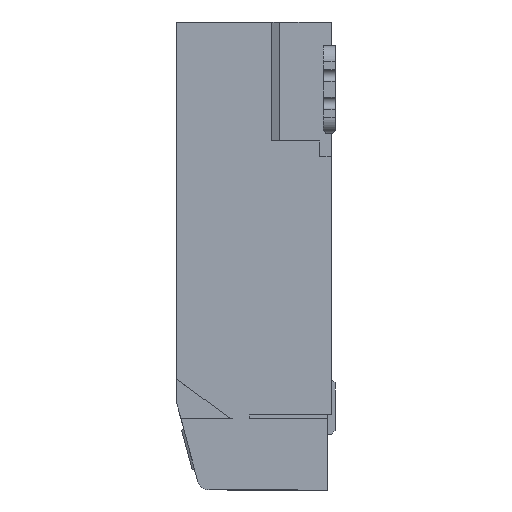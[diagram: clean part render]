
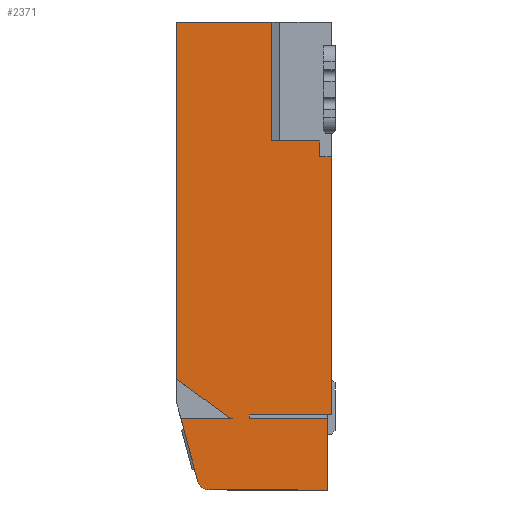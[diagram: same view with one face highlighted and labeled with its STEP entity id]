
A CAD part, left-side view. The second image highlights one B-rep face of the part: STEP entity #2371.
In plain terms, the highlighted planar face has unit normal (-1, 0, 0).
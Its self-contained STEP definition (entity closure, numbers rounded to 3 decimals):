
#13 = ORIENTED_EDGE ( 'NONE', *, *, #2434, .F. ) ;
#17 = ORIENTED_EDGE ( 'NONE', *, *, #2703, .F. ) ;
#33 = ORIENTED_EDGE ( 'NONE', *, *, #2443, .T. ) ;
#357 = VERTEX_POINT ( 'NONE', #3803 ) ;
#396 = VERTEX_POINT ( 'NONE', #3831 ) ;
#704 = VERTEX_POINT ( 'NONE', #3877 ) ;
#738 = VERTEX_POINT ( 'NONE', #3910 ) ;
#776 = VERTEX_POINT ( 'NONE', #3948 ) ;
#824 = VERTEX_POINT ( 'NONE', #3996 ) ;
#861 = VERTEX_POINT ( 'NONE', #4033 ) ;
#891 = VERTEX_POINT ( 'NONE', #4063 ) ;
#919 = VERTEX_POINT ( 'NONE', #4091 ) ;
#1092 = VERTEX_POINT ( 'NONE', #4229 ) ;
#1103 = VERTEX_POINT ( 'NONE', #4240 ) ;
#1109 = VERTEX_POINT ( 'NONE', #4246 ) ;
#1573 = EDGE_CURVE ( 'NONE', #2544, #1109, #6203, .T. ) ;
#1686 = EDGE_CURVE ( 'NONE', #2539, #2166, #6526, .T. ) ;
#1691 = EDGE_CURVE ( 'NONE', #1103, #2539, #6558, .T. ) ;
#1704 = EDGE_CURVE ( 'NONE', #2147, #2588, #6597, .T. ) ;
#1820 = EDGE_CURVE ( 'NONE', #891, #738, #7000, .T. ) ;
#2045 = EDGE_CURVE ( 'NONE', #776, #2544, #8338, .T. ) ;
#2056 = EDGE_CURVE ( 'NONE', #1092, #861, #8363, .T. ) ;
#2147 = VERTEX_POINT ( 'NONE', #8516 ) ;
#2166 = VERTEX_POINT ( 'NONE', #8524 ) ;
#2371 = ADVANCED_FACE ( 'NONE', ( #8730 ), #8731, .F. ) ;
#2434 = EDGE_CURVE ( 'NONE', #738, #1103, #9031, .T. ) ;
#2436 = EDGE_CURVE ( 'NONE', #919, #704, #9048, .T. ) ;
#2439 = EDGE_CURVE ( 'NONE', #919, #2588, #9057, .T. ) ;
#2441 = EDGE_CURVE ( 'NONE', #357, #824, #9039, .T. ) ;
#2443 = EDGE_CURVE ( 'NONE', #824, #861, #7703, .T. ) ;
#2457 = EDGE_CURVE ( 'NONE', #704, #776, #9109, .T. ) ;
#2491 = EDGE_CURVE ( 'NONE', #396, #2166, #7754, .T. ) ;
#2539 = VERTEX_POINT ( 'NONE', #9336 ) ;
#2544 = VERTEX_POINT ( 'NONE', #9341 ) ;
#2588 = VERTEX_POINT ( 'NONE', #9385 ) ;
#2594 = EDGE_CURVE ( 'NONE', #891, #1109, #9392, .T. ) ;
#2683 = EDGE_CURVE ( 'NONE', #357, #2147, #9662, .T. ) ;
#2703 = EDGE_CURVE ( 'NONE', #396, #1092, #9721, .T. ) ;
#3725 = EDGE_LOOP ( 'NONE', ( #9889, #9887, #7355, #9869, #9916, #9925, #9884, #9893, #7494, #33, #7570, #17, #9903, #7312, #7827, #13, #9888 ) ) ;
#3803 = CARTESIAN_POINT ( 'NONE',  ( -7.25, 2., 0.7 ) ) ;
#3831 = CARTESIAN_POINT ( 'NONE',  ( -7.25, 1.735, -0.589 ) ) ;
#3877 = CARTESIAN_POINT ( 'NONE',  ( -7.25, 0.2, 3.7 ) ) ;
#3910 = CARTESIAN_POINT ( 'NONE',  ( -7.25, 1.085, 0.2 ) ) ;
#3948 = CARTESIAN_POINT ( 'NONE',  ( -7.25, 0.2, 3.5 ) ) ;
#3996 = CARTESIAN_POINT ( 'NONE',  ( -7.25, 1.349, 0.22 ) ) ;
#4033 = CARTESIAN_POINT ( 'NONE',  ( -7.25, 1.29, 0.2 ) ) ;
#4063 = CARTESIAN_POINT ( 'NONE',  ( -7.25, 1.085, 0.248 ) ) ;
#4091 = CARTESIAN_POINT ( 'NONE',  ( -7.25, 0.8, 3.7 ) ) ;
#4229 = CARTESIAN_POINT ( 'NONE',  ( -7.25, 1.946, 0.2 ) ) ;
#4240 = CARTESIAN_POINT ( 'NONE',  ( -7.25, 0.1, 0.2 ) ) ;
#4246 = CARTESIAN_POINT ( 'NONE',  ( -7.25, 0.05, 0.248 ) ) ;
#4946 = VECTOR ( 'NONE', #6205, 1000. ) ;
#5071 = VECTOR ( 'NONE', #6545, 1000. ) ;
#5077 = VECTOR ( 'NONE', #6561, 1000. ) ;
#5091 = VECTOR ( 'NONE', #6600, 1000. ) ;
#5198 = VECTOR ( 'NONE', #7024, 1000. ) ;
#6203 = LINE ( 'NONE', #6204, #4946 ) ;
#6204 = CARTESIAN_POINT ( 'NONE',  ( -7.25, 0.05, 0.65 ) ) ;
#6205 = DIRECTION ( 'NONE',  ( 0., 0., -1. ) ) ;
#6526 = LINE ( 'NONE', #6544, #5071 ) ;
#6544 = CARTESIAN_POINT ( 'NONE',  ( -7.25, 1.705, -0.7 ) ) ;
#6545 = DIRECTION ( 'NONE',  ( 0., 1., 0. ) ) ;
#6558 = LINE ( 'NONE', #6560, #5077 ) ;
#6560 = CARTESIAN_POINT ( 'NONE',  ( -7.25, 0.1, -0.7 ) ) ;
#6561 = DIRECTION ( 'NONE',  ( 0., 0., -1. ) ) ;
#6597 = LINE ( 'NONE', #6599, #5091 ) ;
#6599 = CARTESIAN_POINT ( 'NONE',  ( -7.25, 2., 5.2 ) ) ;
#6600 = DIRECTION ( 'NONE',  ( 0., -1., 0. ) ) ;
#7000 = LINE ( 'NONE', #7022, #5198 ) ;
#7022 = CARTESIAN_POINT ( 'NONE',  ( -7.25, 1.085, 0.2 ) ) ;
#7024 = DIRECTION ( 'NONE',  ( 0., 0., -1. ) ) ;
#7312 = ORIENTED_EDGE ( 'NONE', *, *, #1686, .F. ) ;
#7355 = ORIENTED_EDGE ( 'NONE', *, *, #2045, .F. ) ;
#7494 = ORIENTED_EDGE ( 'NONE', *, *, #2441, .T. ) ;
#7516 = VECTOR ( 'NONE', #8341, 1000. ) ;
#7529 = VECTOR ( 'NONE', #8373, 1000. ) ;
#7570 = ORIENTED_EDGE ( 'NONE', *, *, #2056, .F. ) ;
#7587 = VECTOR ( 'NONE', #9044, 1000. ) ;
#7631 = AXIS2_PLACEMENT_3D ( 'NONE', #8722, #8733, #8734 ) ;
#7696 = VECTOR ( 'NONE', #9050, 1000. ) ;
#7699 = VECTOR ( 'NONE', #9059, 1000. ) ;
#7700 = VECTOR ( 'NONE', #9064, 1000. ) ;
#7703 = CIRCLE ( 'NONE', #7705, 0.1 ) ;
#7705 = AXIS2_PLACEMENT_3D ( 'NONE', #9070, #9071, #9072 ) ;
#7720 = VECTOR ( 'NONE', #9111, 1000. ) ;
#7754 = CIRCLE ( 'NONE', #7756, 0.15 ) ;
#7756 = AXIS2_PLACEMENT_3D ( 'NONE', #9213, #9214, #9215 ) ;
#7766 = VECTOR ( 'NONE', #9394, 1000. ) ;
#7827 = ORIENTED_EDGE ( 'NONE', *, *, #1691, .F. ) ;
#7900 = VECTOR ( 'NONE', #9664, 1000. ) ;
#7921 = VECTOR ( 'NONE', #9723, 1000. ) ;
#8338 = LINE ( 'NONE', #8340, #7516 ) ;
#8340 = CARTESIAN_POINT ( 'NONE',  ( -7.25, 0.05, 3.5 ) ) ;
#8341 = DIRECTION ( 'NONE',  ( 0., -1., 0. ) ) ;
#8363 = LINE ( 'NONE', #8372, #7529 ) ;
#8372 = CARTESIAN_POINT ( 'NONE',  ( -7.25, 1.946, 0.2 ) ) ;
#8373 = DIRECTION ( 'NONE',  ( 0., -1., 0. ) ) ;
#8516 = CARTESIAN_POINT ( 'NONE',  ( -7.25, 2., 5.2 ) ) ;
#8524 = CARTESIAN_POINT ( 'NONE',  ( -7.25, 1.59, -0.7 ) ) ;
#8722 = CARTESIAN_POINT ( 'NONE',  ( -7.25, 0., 5.2 ) ) ;
#8730 = FACE_OUTER_BOUND ( 'NONE', #3725, .T. ) ;
#8731 = PLANE ( 'NONE',  #7631 ) ;
#8733 = DIRECTION ( 'NONE',  ( 1., 0., 0. ) ) ;
#8734 = DIRECTION ( 'NONE',  ( 0., 0., -1. ) ) ;
#9031 = LINE ( 'NONE', #9043, #7587 ) ;
#9039 = LINE ( 'NONE', #9063, #7700 ) ;
#9043 = CARTESIAN_POINT ( 'NONE',  ( -7.25, 1.097, 0.2 ) ) ;
#9044 = DIRECTION ( 'NONE',  ( 0., -1., 0. ) ) ;
#9048 = LINE ( 'NONE', #9049, #7696 ) ;
#9049 = CARTESIAN_POINT ( 'NONE',  ( -7.25, 0.05, 3.7 ) ) ;
#9050 = DIRECTION ( 'NONE',  ( 0., -1., 0. ) ) ;
#9057 = LINE ( 'NONE', #9058, #7699 ) ;
#9058 = CARTESIAN_POINT ( 'NONE',  ( -7.25, 0.8, 3.7 ) ) ;
#9059 = DIRECTION ( 'NONE',  ( 0., 0., 1. ) ) ;
#9063 = CARTESIAN_POINT ( 'NONE',  ( -7.25, 1.932, 0.65 ) ) ;
#9064 = DIRECTION ( 'NONE',  ( 0., -0.804, -0.594 ) ) ;
#9070 = CARTESIAN_POINT ( 'NONE',  ( -7.25, 1.29, 0.3 ) ) ;
#9071 = DIRECTION ( 'NONE',  ( -1., 0., 0. ) ) ;
#9072 = DIRECTION ( 'NONE',  ( 0., 0., 1. ) ) ;
#9109 = LINE ( 'NONE', #9110, #7720 ) ;
#9110 = CARTESIAN_POINT ( 'NONE',  ( -7.25, 0.2, 3.5 ) ) ;
#9111 = DIRECTION ( 'NONE',  ( 0., 0., -1. ) ) ;
#9213 = CARTESIAN_POINT ( 'NONE',  ( -7.25, 1.59, -0.55 ) ) ;
#9214 = DIRECTION ( 'NONE',  ( -1., 0., 0. ) ) ;
#9215 = DIRECTION ( 'NONE',  ( 0., 1., 0. ) ) ;
#9336 = CARTESIAN_POINT ( 'NONE',  ( -7.25, 0.1, -0.7 ) ) ;
#9341 = CARTESIAN_POINT ( 'NONE',  ( -7.25, 0.05, 3.5 ) ) ;
#9385 = CARTESIAN_POINT ( 'NONE',  ( -7.25, 0.8, 5.2 ) ) ;
#9392 = LINE ( 'NONE', #9393, #7766 ) ;
#9393 = CARTESIAN_POINT ( 'NONE',  ( -7.25, 1.205, 0.248 ) ) ;
#9394 = DIRECTION ( 'NONE',  ( 0., -1., 0. ) ) ;
#9662 = LINE ( 'NONE', #9663, #7900 ) ;
#9663 = CARTESIAN_POINT ( 'NONE',  ( -7.25, 2., 0.2 ) ) ;
#9664 = DIRECTION ( 'NONE',  ( 0., 0., 1. ) ) ;
#9721 = LINE ( 'NONE', #9722, #7921 ) ;
#9722 = CARTESIAN_POINT ( 'NONE',  ( -7.25, 1.946, 0.2 ) ) ;
#9723 = DIRECTION ( 'NONE',  ( 0., 0.259, 0.966 ) ) ;
#9869 = ORIENTED_EDGE ( 'NONE', *, *, #2457, .F. ) ;
#9884 = ORIENTED_EDGE ( 'NONE', *, *, #1704, .F. ) ;
#9887 = ORIENTED_EDGE ( 'NONE', *, *, #1573, .F. ) ;
#9888 = ORIENTED_EDGE ( 'NONE', *, *, #1820, .F. ) ;
#9889 = ORIENTED_EDGE ( 'NONE', *, *, #2594, .T. ) ;
#9893 = ORIENTED_EDGE ( 'NONE', *, *, #2683, .F. ) ;
#9903 = ORIENTED_EDGE ( 'NONE', *, *, #2491, .T. ) ;
#9916 = ORIENTED_EDGE ( 'NONE', *, *, #2436, .F. ) ;
#9925 = ORIENTED_EDGE ( 'NONE', *, *, #2439, .T. ) ;
